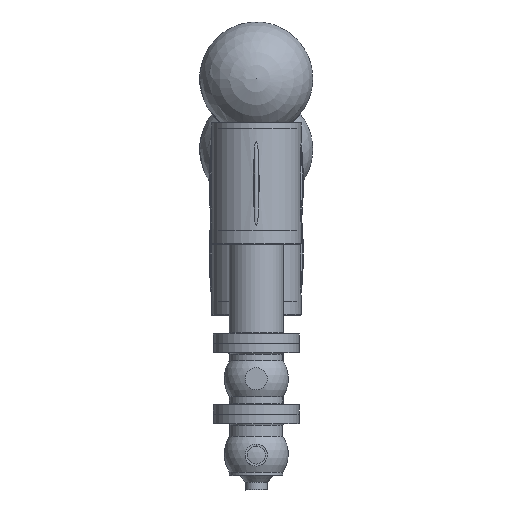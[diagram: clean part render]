
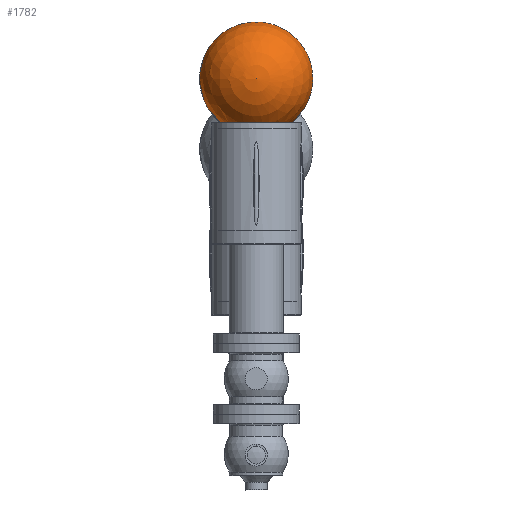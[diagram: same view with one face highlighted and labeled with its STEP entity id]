
A CAD part, front view. The second image highlights one B-rep face of the part: STEP entity #1782.
In plain terms, the highlighted spherical face has radius 72.5 mm.
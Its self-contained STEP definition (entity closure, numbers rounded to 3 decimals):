
#184=SPHERICAL_SURFACE('',#2141,72.5);
#204=FACE_BOUND('',#434,.T.);
#315=FACE_OUTER_BOUND('',#433,.T.);
#433=EDGE_LOOP('',(#1537,#1538));
#434=EDGE_LOOP('',(#1539));
#576=CIRCLE('',#2142,72.5);
#577=CIRCLE('',#2143,46.648);
#888=VERTEX_POINT('',#3777);
#889=VERTEX_POINT('',#3778);
#890=VERTEX_POINT('',#3780);
#1116=EDGE_CURVE('',#888,#889,#576,.T.);
#1117=EDGE_CURVE('',#890,#890,#577,.T.);
#1537=ORIENTED_EDGE('',*,*,#1116,.T.);
#1538=ORIENTED_EDGE('',*,*,#1116,.F.);
#1539=ORIENTED_EDGE('',*,*,#1117,.F.);
#1782=ADVANCED_FACE('',(#315,#204),#184,.T.);
#2141=AXIS2_PLACEMENT_3D('',#3776,#2646,#2647);
#2142=AXIS2_PLACEMENT_3D('',#3779,#2648,#2649);
#2143=AXIS2_PLACEMENT_3D('',#3781,#2650,#2651);
#2646=DIRECTION('center_axis',(0.,0.,1.));
#2647=DIRECTION('ref_axis',(1.,0.,0.));
#2648=DIRECTION('center_axis',(0.,-1.,0.));
#2649=DIRECTION('ref_axis',(-1.,0.,0.));
#2650=DIRECTION('center_axis',(0.,-1.,0.));
#2651=DIRECTION('ref_axis',(1.,0.,0.));
#3776=CARTESIAN_POINT('Origin',(150.,266.5,0.));
#3777=CARTESIAN_POINT('',(150.,266.5,72.5));
#3778=CARTESIAN_POINT('',(150.,266.5,-72.5));
#3779=CARTESIAN_POINT('Origin',(150.,266.5,0.));
#3780=CARTESIAN_POINT('',(196.648,211.,0.));
#3781=CARTESIAN_POINT('Origin',(150.,211.,0.));
